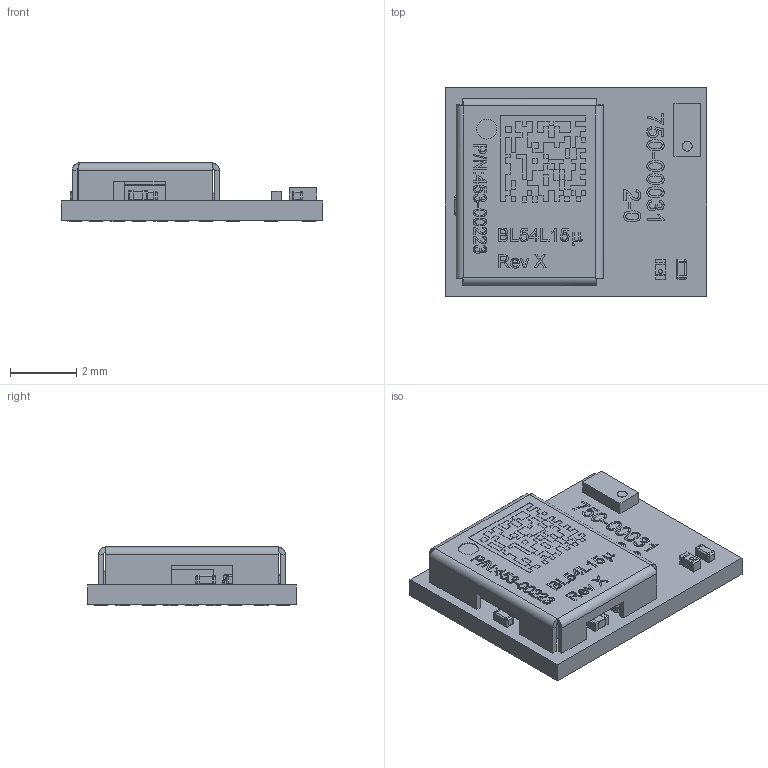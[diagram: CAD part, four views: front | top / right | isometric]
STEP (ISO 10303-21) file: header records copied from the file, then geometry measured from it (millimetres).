
FILE_DESCRIPTION (( 'STEP AP203' ), '1' );
FILE_NAME ('453-00223.STEP', '2024-11-08T02:27:41', ( '' ), ( '' ), 'SwSTEP 2.0', 'SolidWorks 2023', '' );
FILE_SCHEMA (( 'CONFIG_CONTROL_DESIGN' ));
Length unit declared in the file: millimetre
Products named in the file (1): 453-00223
Bounding box: 7.9 x 6.3 x 1.76 mm (x, y, z)
Volume: 40.5 mm3; surface area: 264.5 mm2
Topology: 117 solids, 117 shells, 1933 faces, 4603 edges, 2931 vertices
Faces by surface type: plane 1340, bspline 317, cylinder 212, sphere 64
Entity records: 69183 total; most frequent: CARTESIAN_POINT 26762, ORIENTED_EDGE 9078, DIRECTION 7591, EDGE_CURVE 4539, VECTOR 3501, LINE 3501, VERTEX_POINT 2931, AXIS2_PLACEMENT_3D 2045
